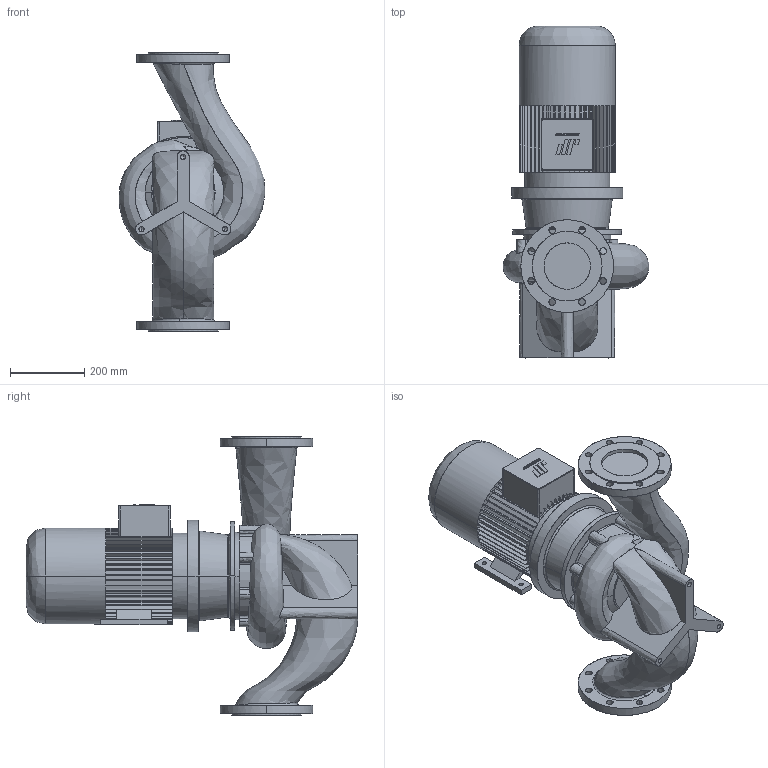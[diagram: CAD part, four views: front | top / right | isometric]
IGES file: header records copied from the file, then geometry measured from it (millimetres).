
Start section: CombiLine
Global section: file name: CLB_125-200_IEC132S_ND10.igs; native system:  By UGS Corp.; preprocessor: XPlus GENERIC/IGES 3.0; author: Stageplaats; organization: Johnson Pump Water B.V.; date: 20070717.133022; units: millimetre
Bounding box: 393.15 x 895 x 750 mm (x, y, z)
Surface area: 1811795.5 mm2 (no closed solid volume)
Topology: 0 solids, 0 shells, 600 faces, 3637 edges, 3631 vertices
Faces by surface type: bspline 600
